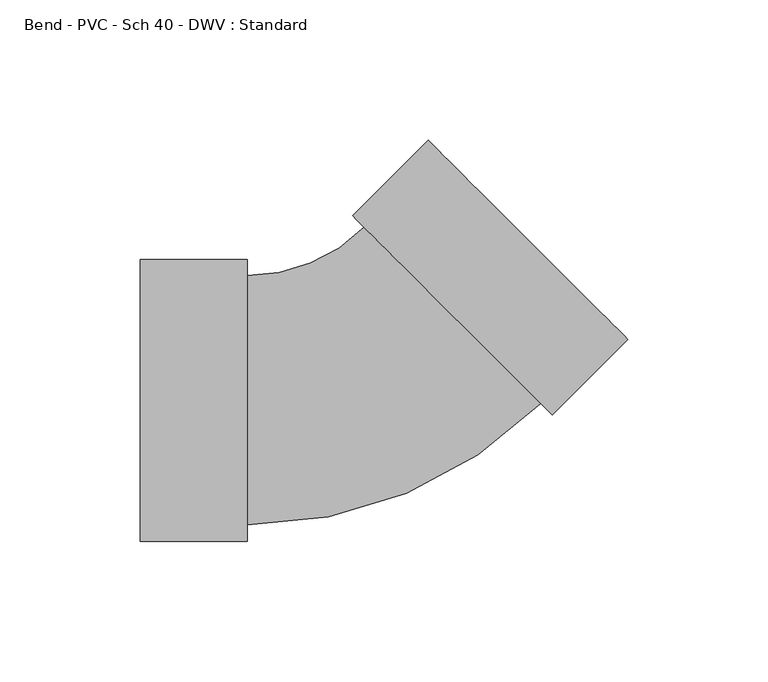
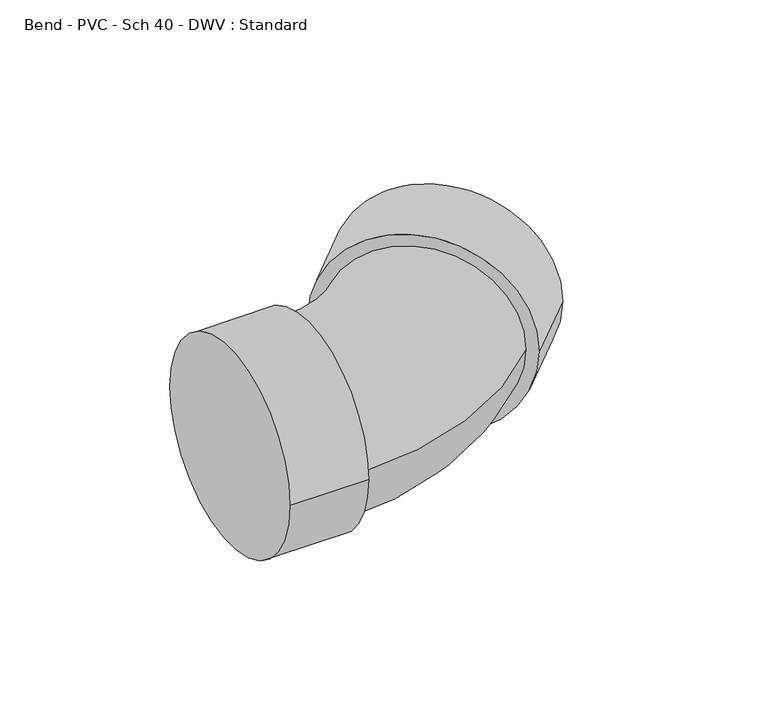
"""IFC4 building model written with IfcOpenShell, lengths in millimetres: pipe fitting geometry, Bend - PVC - Sch 40 - DWV : Standard."""

from ifc_helpers import new_model, si_unit, point, frame, origin, place, context, project, spatial, circle_curve, ellipse_curve, trimmed, source, transform, mapped, element, save
from ifc_brep_helpers import plane_surface, cylinder_surface, revolved_surface, advanced_brep


def bend_pvc_sch_40_dwv_standard_24e66de7(model_context):
    return source(origin(), model_context, "Body", "AdvancedBrep", [
        advanced_brep(
        [(-80.9752, -50.2666, 0.0), (-80.9752, 50.2666, 0.0), (-42.8752, -50.2666, 0.0), (-42.8752, 50.2666, 0.0), (-42.8752, -44.45, 0.0), (-42.8752, 44.45, 0.0), (-1.1719205, 61.7471609, 0.0), (61.7492661, -1.055182, 0.0), (65.8661095, -5.1642496, 0.0), (-5.2887639, 65.8562285, 0.0), (92.7813993, 21.8019733, 0.0), (21.6265259, 92.8224513, 0.0)],
        [
            (0, 1, circle_curve(frame((-80.9752, 0.0, 0.0), z_axis=(-1.0, 0.0, 0.0), x_axis=(0.0, 1.0, 0.0)), 50.2666)),
            (1, 0, circle_curve(frame((-80.9752, 0.0, 0.0), z_axis=(-1.0, 0.0, 0.0), x_axis=(0.0, 1.0, 0.0)), 50.2666)),
            (2, 3, circle_curve(frame((-42.8752, 0.0, 0.0), z_axis=(1.0, 0.0, 0.0), x_axis=(0.0, 1.0, 0.0)), 50.2666)),
            (3, 2, circle_curve(frame((-42.8752, 0.0, 0.0), z_axis=(1.0, 0.0, 0.0), x_axis=(0.0, 1.0, 0.0)), 50.2666)),
            (4, 5, circle_curve(frame((-42.8752, 0.0, 0.0), z_axis=(-1.0, 0.0, 0.0), x_axis=(0.0, 1.0, 0.0)), 44.45)),
            (5, 4, circle_curve(frame((-42.8752, 0.0, 0.0), z_axis=(-1.0, 0.0, 0.0), x_axis=(0.0, 1.0, 0.0)), 44.45)),
            (0, 2),
            (3, 1),
            (6, 5, circle_curve(frame((-42.8752, 103.3716724, 0.0), z_axis=(0.0, 0.0, -1.0), x_axis=(0.0, -1.0, 0.0)), 58.9216724)),
            (4, 7, circle_curve(frame((-42.8752, 103.3716724, 0.0), z_axis=(0.0, 0.0, 1.0), x_axis=(0.0, -1.0, 0.0)), 147.8216724)),
            (7, 6, circle_curve(frame((30.2886728, 30.3459894, 0.0), z_axis=(-0.7064380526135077, -0.7077748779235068, 0.0), x_axis=(-0.7077748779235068, 0.7064380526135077, 0.0)), 44.45)),
            (6, 7, circle_curve(frame((30.2886728, 30.3459894, 0.0), z_axis=(-0.7064380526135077, -0.7077748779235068, 0.0), x_axis=(-0.7077748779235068, 0.7064380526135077, 0.0)), 44.45)),
            (8, 9, circle_curve(frame((30.2886728, 30.3459894, 0.0), z_axis=(-0.7064380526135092, -0.7077748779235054, 0.0), x_axis=(-0.7077748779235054, 0.7064380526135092, 0.0)), 50.2666)),
            (9, 8, circle_curve(frame((30.2886728, 30.3459894, 0.0), z_axis=(-0.7064380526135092, -0.7077748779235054, 0.0), x_axis=(-0.7077748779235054, 0.7064380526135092, 0.0)), 50.2666)),
            (10, 11, circle_curve(frame((57.2039626, 57.3122123, 0.0), z_axis=(0.7064380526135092, 0.7077748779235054, 0.0), x_axis=(-0.7077748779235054, 0.7064380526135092, 0.0)), 50.2666)),
            (11, 10, circle_curve(frame((57.2039626, 57.3122123, 0.0), z_axis=(0.7064380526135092, 0.7077748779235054, 0.0), x_axis=(-0.7077748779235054, 0.7064380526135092, 0.0)), 50.2666)),
            (8, 10),
            (11, 9),
        ],
        [
            plane_surface(frame((-80.9752, 0.0, 0.0), z_axis=(-1.0, 0.0, 0.0), x_axis=(0.0, 0.0, 1.0))),
            plane_surface(frame((-42.8752, 0.0, 0.0), z_axis=(1.0, 0.0, 0.0), x_axis=(0.0, 0.0, 1.0))),
            cylinder_surface(frame((-80.9752, 0.0, 0.0), z_axis=(-1.0, 0.0, 0.0), x_axis=(0.0, 1.0, 0.0)), 50.2666),
            revolved_surface(trimmed(ellipse_curve(frame((-42.8752, 0.0, 0.0), z_axis=(-1.0, 0.0, 0.0), x_axis=(0.0, 1.0, 0.0)), 44.45, 44.45), [point((-42.8752, -44.45, 0.0))], [point((-42.8752, 44.45, 0.0))], True, "CARTESIAN"), (-42.8752, 103.3716724, 0.0), (0.0, 0.0, 1.0)),
            revolved_surface(trimmed(ellipse_curve(frame((-42.8752, 0.0, 0.0), z_axis=(-1.0, 0.0, 0.0), x_axis=(0.0, 1.0, 0.0)), 44.45, 44.45), [point((-42.8752, 44.45, 0.0))], [point((-42.8752, -44.45, 0.0))], True, "CARTESIAN"), (-42.8752, 103.3716724, 0.0), (0.0, 0.0, 1.0)),
            plane_surface(frame((30.2886728, 30.3459894, 0.0), z_axis=(-0.7064380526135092, -0.7077748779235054, 0.0), x_axis=(0.0, 0.0, 1.0))),
            plane_surface(frame((57.2039626, 57.3122123, 0.0), z_axis=(0.7064380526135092, 0.7077748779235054, 0.0), x_axis=(0.0, 0.0, 1.0))),
            cylinder_surface(frame((30.2886728, 30.3459894, 0.0), z_axis=(-0.7064380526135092, -0.7077748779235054, 0.0), x_axis=(-0.7077748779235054, 0.7064380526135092, 0.0)), 50.2666),
        ],
        [
            (0, [[1, 2]]),
            (1, [[3, 4], [5, 6]]),
            (2, [[-1, 7, -4, 8]]),
            (2, [[-2, -8, -3, -7]]),
            (3, [[9, -5, 10, 11]]),
            (4, [[-9, 12, -10, -6]]),
            (5, [[13, 14], [-11, -12]]),
            (6, [[15, 16]]),
            (7, [[-13, 17, -16, 18]]),
            (7, [[-14, -18, -15, -17]]),
        ],
    ),
    ])


if __name__ == "__main__":
    model = new_model("IFC4")
    model_context = context("Model", 3, world=origin())
    ifc_project = project(units=[si_unit("LENGTHUNIT", "METRE", prefix="MILLI")], contexts=[model_context])
    site = spatial("IfcSite", under=ifc_project)
    building = spatial("IfcBuilding", under=site)
    placement = place(None, origin())
    bend_pvc_sch_40_dwv_standard_shape = bend_pvc_sch_40_dwv_standard_24e66de7(model_context)
    element("IfcPipeFitting", 1, ObjectType="Bend - PVC - Sch 40 - DWV : Standard", at=placement, inside=building, context=model_context, shape_type="MappedRepresentation", body=[
        mapped(bend_pvc_sch_40_dwv_standard_shape, transform((0.0, 0.0, 0.0), x_axis=(1.0, 0.0, 0.0), y_axis=(0.0, 1.0, 0.0), z_axis=(0.0, 0.0, 1.0))),
    ])
    save(model, "model.ifc")
